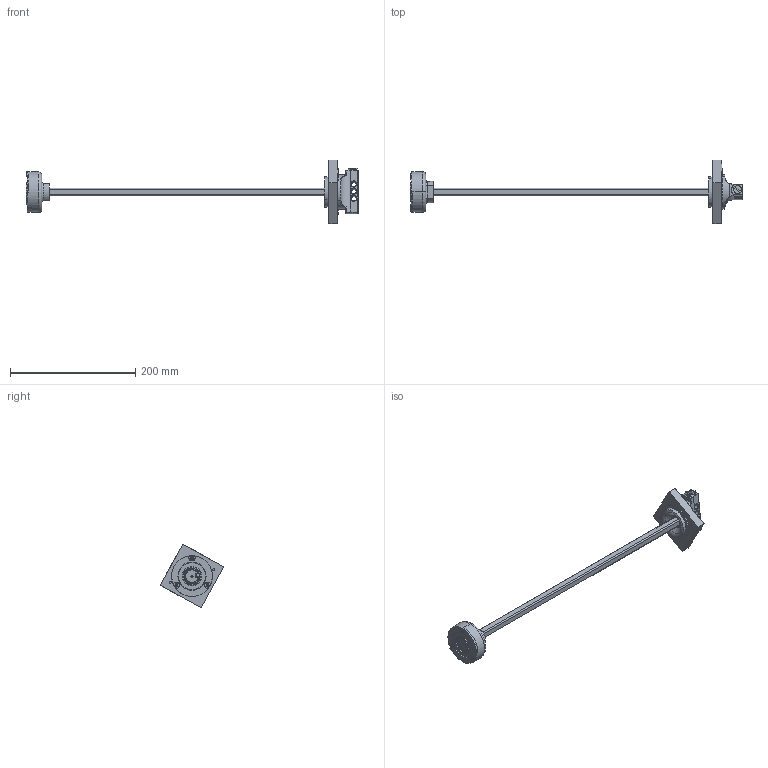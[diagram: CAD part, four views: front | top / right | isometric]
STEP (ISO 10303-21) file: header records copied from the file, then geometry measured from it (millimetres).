
FILE_DESCRIPTION((''),'2;1');
FILE_NAME('LV431050_ASM','2018-10-02T',('SESA468396'),('Schneider-Electric'),'PRO/ENGINEER BY PARAMETRIC TECHNOLOGY CORPORATION, 2015440','PRO/ENGINEER BY PARAMETRIC TECHNOLOGY CORPORATION, 2015440','');
FILE_SCHEMA(('CONFIG_CONTROL_DESIGN'));
Length unit declared in the file: millimetre
Products named in the file (5): LV431050-1; LV431050-2; LV431050-3; LV431050-4; LV431050_ASM
Assembly tree (4 placements, depth 2):
  LV431050_ASM
    LV431050-1
    LV431050-2
    LV431050-3
    LV431050-4
Bounding box: 530.5 x 101.84 x 101.84 mm (x, y, z)
Volume: 246554.7 mm3; surface area: 75666 mm2
Topology: 4 solids, 4 shells, 534 faces, 1356 edges, 835 vertices
Faces by surface type: cylinder 199, plane 165, torus 85, bspline 61, sphere 20, cone 4
Entity records: 19251 total; most frequent: CARTESIAN_POINT 6486, ORIENTED_EDGE 2700, DIRECTION 2687, EDGE_CURVE 1350, AXIS2_PLACEMENT_3D 1078, VERTEX_POINT 835, CIRCLE 596, EDGE_LOOP 557
